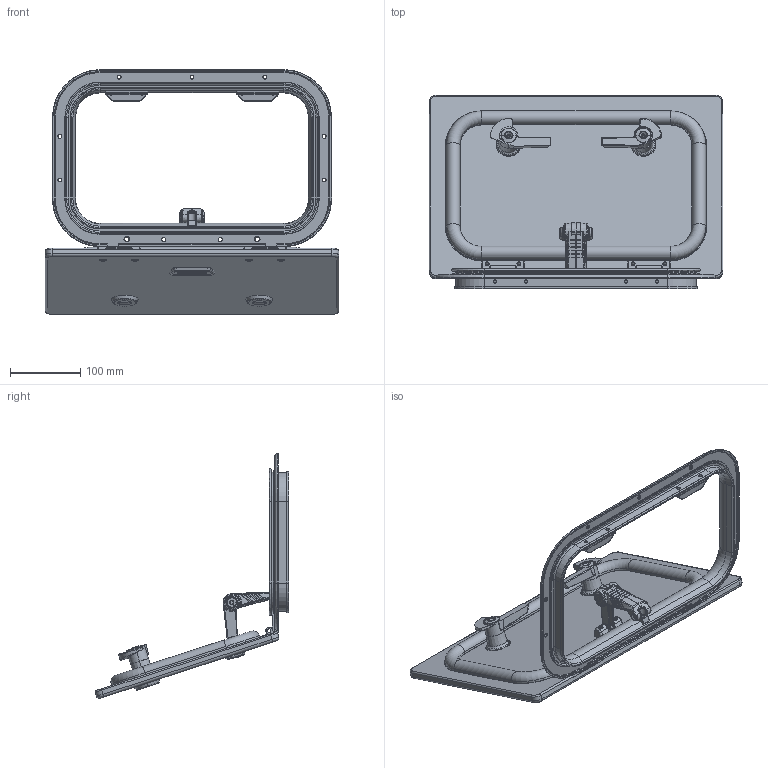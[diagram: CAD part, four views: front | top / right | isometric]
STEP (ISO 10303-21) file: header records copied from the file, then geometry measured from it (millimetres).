
FILE_DESCRIPTION((''),'2;1');
FILE_NAME('39920X1Y_ASM','2009-12-18T',('awickes'),(''),'PRO/ENGINEER BY PARAMETRIC TECHNOLOGY CORPORATION, 2007030','PRO/ENGINEER BY PARAMETRIC TECHNOLOGY CORPORATION, 2007030','');
FILE_SCHEMA(('CONFIG_CONTROL_DESIGN'));
Length unit declared in the file: millimetre
Products named in the file (26): 35002023; 35001767_AF0; 35001781_AF0; 35001828Z; 38002023Y_AF0_ASM; 35000998Z; 35002022X; 35001954Y; 35001825Z; 35001823Z; 15801312; 15801315; 39920X1Y_SEAL; 15801313; 35001827Z; 15801279; 38002022X_ASM; 35001857Z; 35001717Z; 35001858Z; 35001859Z; B20153; 15801293; B20152; 38001856_FOR_30188400_ASM; 39920X1Y_ASM
Assembly tree (32 placements, depth 3):
  39920X1Y_ASM
    38002023Y_AF0_ASM
      35002023
      35001767_AF0
      35001781_AF0
      35001828Z
    35000998Z  x2
    38002022X_ASM
      35002022X
      35001954Y  x2
      35001825Z  x2
      35001823Z  x2
      15801312
      15801315  x2
      39920X1Y_SEAL
      15801313
      35001827Z
      15801279  x2
    38001856_FOR_30188400_ASM
      35001857Z
      35001717Z  x2
      35001858Z
      35001859Z
      B20153
      15801293
      B20152
Bounding box: 417 x 275 x 347.1 mm (x, y, z)
Volume: 1883095.9 mm3; surface area: 564775.3 mm2
Topology: 29 solids, 31 shells, 2073 faces, 5165 edges, 3204 vertices
Faces by surface type: cylinder 724, plane 650, bspline 280, torus 230, cone 127, sphere 52, extrusion 10
Entity records: 67798 total; most frequent: CARTESIAN_POINT 26763, ORIENTED_EDGE 8809, DIRECTION 8134, EDGE_CURVE 4407, AXIS2_PLACEMENT_3D 3196, VERTEX_POINT 2739, EDGE_LOOP 1907, FACE_OUTER_BOUND 1760
